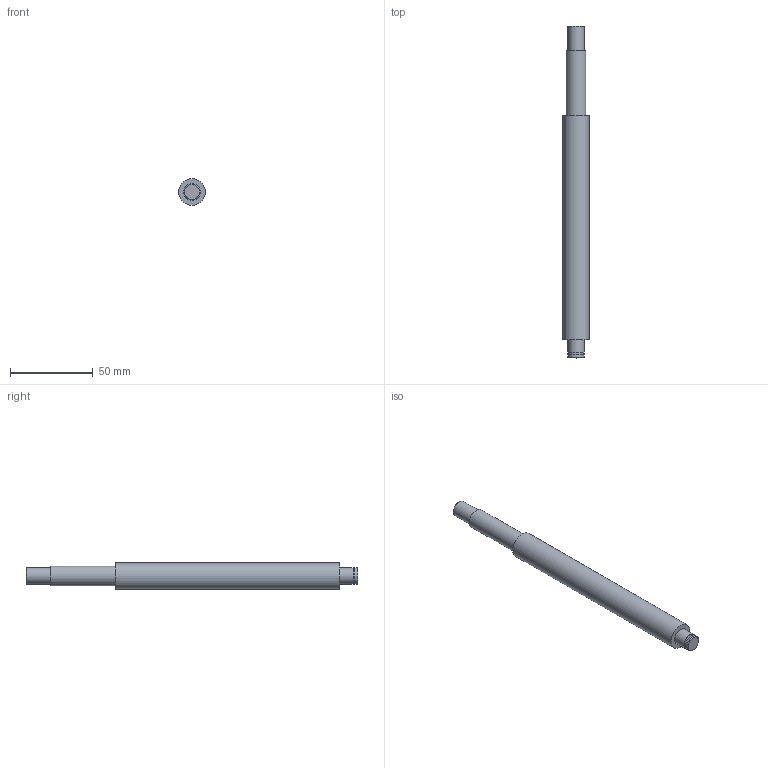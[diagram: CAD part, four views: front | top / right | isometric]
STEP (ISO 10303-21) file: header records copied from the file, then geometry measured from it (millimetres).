
FILE_DESCRIPTION(/* description */ (''),/* implementation_level */ '2;1');
FILE_NAME(/* name */ 'C:\Users\David\Desktop\stepFiles\Profilfuehrung\KUS1605x200.stp',/* time_stamp */ '2018-06-24T15:08:43+02:00',/* author */ ('David'),/* organization */ (''),/* preprocessor_version */ 'ST-DEVELOPER v17',/* originating_system */ 'Autodesk Inventor 2019',/* authorisation */ '');
FILE_SCHEMA (('AUTOMOTIVE_DESIGN { 1 0 10303 214 3 1 1 }'));
Length unit declared in the file: millimetre
Products named in the file (1): SFU1605xvariabel
Bounding box: 16 x 200 x 16 mm (x, y, z)
Volume: 33581.5 mm3; surface area: 9466.9 mm2
Topology: 1 solids, 1 shells, 15 faces, 34 edges, 26 vertices
Faces by surface type: plane 7, cylinder 6, cone 2
Full cylindrical faces by diameter (mm): 9.6 x1, 10 x3, 12 x1, 16 x1
Entity records: 493 total; most frequent: DIRECTION 92, CARTESIAN_POINT 76, ORIENTED_EDGE 68, AXIS2_PLACEMENT_3D 42, EDGE_CURVE 34, CIRCLE 26, VERTEX_POINT 26, EDGE_LOOP 20
